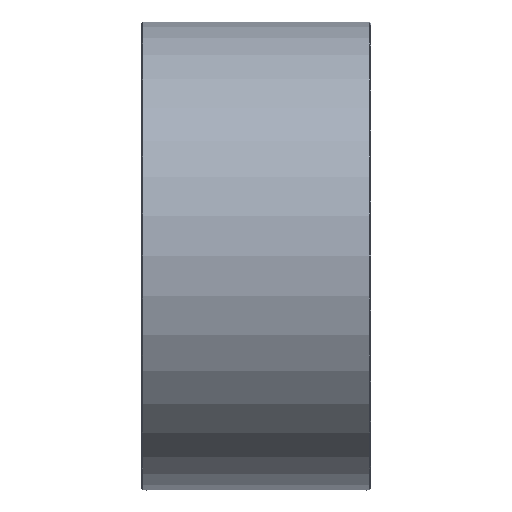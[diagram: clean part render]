
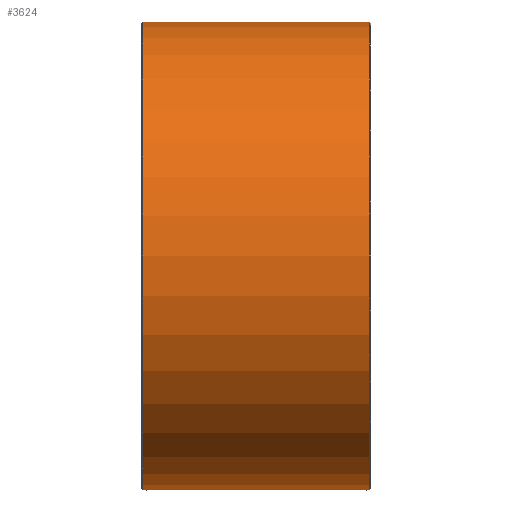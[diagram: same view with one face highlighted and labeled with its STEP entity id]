
A CAD part, left-side view. The second image highlights one B-rep face of the part: STEP entity #3624.
In plain terms, the highlighted cylindrical face has radius 112.5 mm (diameter 225 mm), a full revolution.
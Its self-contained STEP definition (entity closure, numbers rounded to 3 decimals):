
#2818=CYLINDRICAL_SURFACE('',#14301,112.5);
#3624=ADVANCED_FACE('',(#5367,#5368,#5369),#2818,.T.);
#4637=CIRCLE('',#14254,112.5);
#4653=CIRCLE('',#14272,112.5);
#4670=CIRCLE('',#14293,112.5);
#4671=CIRCLE('',#14294,112.5);
#4672=CIRCLE('',#14295,112.5);
#4673=CIRCLE('',#14296,112.5);
#4674=CIRCLE('',#14297,112.5);
#4675=CIRCLE('',#14298,112.5);
#4676=CIRCLE('',#14299,112.5);
#4677=CIRCLE('',#14300,112.5);
#5367=FACE_BOUND('',#6506,.T.);
#5368=FACE_BOUND('',#6507,.T.);
#5369=FACE_BOUND('',#6508,.T.);
#6506=EDGE_LOOP('',(#8565,#8566,#8567,#8568,#8569,#8570,#8571,#8572));
#6507=EDGE_LOOP('',(#8573,#8574,#8575,#8576,#8577,#8578,#8579,#8580));
#6508=EDGE_LOOP('',(#8581,#8582,#8583,#8584));
#8565=ORIENTED_EDGE('',*,*,#11789,.T.);
#8566=ORIENTED_EDGE('',*,*,#11746,.F.);
#8567=ORIENTED_EDGE('',*,*,#11790,.F.);
#8568=ORIENTED_EDGE('',*,*,#11791,.F.);
#8569=ORIENTED_EDGE('',*,*,#11792,.T.);
#8570=ORIENTED_EDGE('',*,*,#11793,.F.);
#8571=ORIENTED_EDGE('',*,*,#11794,.F.);
#8572=ORIENTED_EDGE('',*,*,#11795,.F.);
#8573=ORIENTED_EDGE('',*,*,#11796,.F.);
#8574=ORIENTED_EDGE('',*,*,#11766,.T.);
#8575=ORIENTED_EDGE('',*,*,#11797,.T.);
#8576=ORIENTED_EDGE('',*,*,#11798,.F.);
#8577=ORIENTED_EDGE('',*,*,#11799,.T.);
#8578=ORIENTED_EDGE('',*,*,#11800,.T.);
#8579=ORIENTED_EDGE('',*,*,#11801,.F.);
#8580=ORIENTED_EDGE('',*,*,#11802,.T.);
#8581=ORIENTED_EDGE('',*,*,#11803,.F.);
#8582=ORIENTED_EDGE('',*,*,#11804,.F.);
#8583=ORIENTED_EDGE('',*,*,#11805,.F.);
#8584=ORIENTED_EDGE('',*,*,#11806,.F.);
#10468=VERTEX_POINT('',#20436);
#10469=VERTEX_POINT('',#20441);
#10487=VERTEX_POINT('',#20482);
#10489=VERTEX_POINT('',#20489);
#10510=VERTEX_POINT('',#20544);
#10511=VERTEX_POINT('',#20546);
#10512=VERTEX_POINT('',#20548);
#10513=VERTEX_POINT('',#20550);
#10514=VERTEX_POINT('',#20552);
#10515=VERTEX_POINT('',#20554);
#10516=VERTEX_POINT('',#20557);
#10517=VERTEX_POINT('',#20559);
#10518=VERTEX_POINT('',#20561);
#10519=VERTEX_POINT('',#20563);
#10520=VERTEX_POINT('',#20565);
#10521=VERTEX_POINT('',#20567);
#10522=VERTEX_POINT('',#20570);
#10523=VERTEX_POINT('',#20571);
#10524=VERTEX_POINT('',#20573);
#10525=VERTEX_POINT('',#20575);
#11746=EDGE_CURVE('',#10469,#10468,#4637,.T.);
#11766=EDGE_CURVE('',#10487,#10489,#4653,.T.);
#11789=EDGE_CURVE('',#10510,#10468,#12870,.T.);
#11790=EDGE_CURVE('',#10511,#10469,#12871,.T.);
#11791=EDGE_CURVE('',#10512,#10511,#4670,.T.);
#11792=EDGE_CURVE('',#10512,#10513,#12872,.T.);
#11793=EDGE_CURVE('',#10514,#10513,#4671,.T.);
#11794=EDGE_CURVE('',#10515,#10514,#12873,.T.);
#11795=EDGE_CURVE('',#10510,#10515,#4672,.T.);
#11796=EDGE_CURVE('',#10487,#10516,#12874,.T.);
#11797=EDGE_CURVE('',#10489,#10517,#12875,.T.);
#11798=EDGE_CURVE('',#10518,#10517,#4673,.T.);
#11799=EDGE_CURVE('',#10518,#10519,#12876,.T.);
#11800=EDGE_CURVE('',#10519,#10520,#4674,.T.);
#11801=EDGE_CURVE('',#10521,#10520,#12877,.T.);
#11802=EDGE_CURVE('',#10521,#10516,#4675,.T.);
#11803=EDGE_CURVE('',#10522,#10523,#4676,.T.);
#11804=EDGE_CURVE('',#10524,#10522,#12878,.T.);
#11805=EDGE_CURVE('',#10525,#10524,#4677,.T.);
#11806=EDGE_CURVE('',#10523,#10525,#12879,.T.);
#12870=LINE('',#20543,#13507);
#12871=LINE('',#20545,#13508);
#12872=LINE('',#20549,#13509);
#12873=LINE('',#20553,#13510);
#12874=LINE('',#20556,#13511);
#12875=LINE('',#20558,#13512);
#12876=LINE('',#20562,#13513);
#12877=LINE('',#20566,#13514);
#12878=LINE('',#20572,#13515);
#12879=LINE('',#20576,#13516);
#13507=VECTOR('',#16676,1.);
#13508=VECTOR('',#16677,1.);
#13509=VECTOR('',#16680,1.);
#13510=VECTOR('',#16683,1.);
#13511=VECTOR('',#16686,1.);
#13512=VECTOR('',#16687,1.);
#13513=VECTOR('',#16690,1.);
#13514=VECTOR('',#16693,1.);
#13515=VECTOR('',#16698,1.);
#13516=VECTOR('',#16701,1.);
#14254=AXIS2_PLACEMENT_3D('',#20442,#16592,#16593);
#14272=AXIS2_PLACEMENT_3D('',#20490,#16630,#16631);
#14293=AXIS2_PLACEMENT_3D('',#20547,#16678,#16679);
#14294=AXIS2_PLACEMENT_3D('',#20551,#16681,#16682);
#14295=AXIS2_PLACEMENT_3D('',#20555,#16684,#16685);
#14296=AXIS2_PLACEMENT_3D('',#20560,#16688,#16689);
#14297=AXIS2_PLACEMENT_3D('',#20564,#16691,#16692);
#14298=AXIS2_PLACEMENT_3D('',#20568,#16694,#16695);
#14299=AXIS2_PLACEMENT_3D('',#20569,#16696,#16697);
#14300=AXIS2_PLACEMENT_3D('',#20574,#16699,#16700);
#14301=AXIS2_PLACEMENT_3D('',#20577,#16702,#16703);
#16592=DIRECTION('',(-1.,0.,0.));
#16593=DIRECTION('',(0.,0.,1.));
#16630=DIRECTION('',(-1.,0.,0.));
#16631=DIRECTION('',(0.,0.,1.));
#16676=DIRECTION('',(-1.,0.,0.));
#16677=DIRECTION('',(-1.,0.,0.));
#16678=DIRECTION('',(-1.,0.,0.));
#16679=DIRECTION('',(0.,0.,1.));
#16680=DIRECTION('',(-1.,0.,0.));
#16681=DIRECTION('',(-1.,0.,0.));
#16682=DIRECTION('',(0.,0.,1.));
#16683=DIRECTION('',(-1.,0.,0.));
#16684=DIRECTION('',(-1.,0.,0.));
#16685=DIRECTION('',(0.,0.,-1.));
#16686=DIRECTION('',(-1.,0.,0.));
#16687=DIRECTION('',(-1.,0.,0.));
#16688=DIRECTION('',(1.,0.,0.));
#16689=DIRECTION('',(0.,0.,1.));
#16690=DIRECTION('',(1.,0.,0.));
#16691=DIRECTION('',(-1.,0.,0.));
#16692=DIRECTION('',(0.,0.,1.));
#16693=DIRECTION('',(1.,0.,0.));
#16694=DIRECTION('',(-1.,0.,0.));
#16695=DIRECTION('',(0.,0.,-1.));
#16696=DIRECTION('',(-1.,0.,0.));
#16697=DIRECTION('',(0.,0.,-1.));
#16698=DIRECTION('',(1.,0.,0.));
#16699=DIRECTION('',(1.,0.,0.));
#16700=DIRECTION('',(0.,0.,1.));
#16701=DIRECTION('',(-1.,0.,0.));
#16702=DIRECTION('',(-1.,0.,0.));
#16703=DIRECTION('',(0.,0.,1.));
#20436=CARTESIAN_POINT('',(0.5,3.,-112.46));
#20441=CARTESIAN_POINT('',(0.5,3.,112.46));
#20442=CARTESIAN_POINT('',(0.5,0.,0.));
#20482=CARTESIAN_POINT('',(109.5,-3.,-112.46));
#20489=CARTESIAN_POINT('',(109.5,-3.,112.46));
#20490=CARTESIAN_POINT('',(109.5,0.,0.));
#20543=CARTESIAN_POINT('',(2.,3.,-112.46));
#20544=CARTESIAN_POINT('',(2.,3.,-112.46));
#20545=CARTESIAN_POINT('',(2.,3.,112.46));
#20546=CARTESIAN_POINT('',(2.,3.,112.46));
#20547=CARTESIAN_POINT('',(2.,0.,0.));
#20548=CARTESIAN_POINT('',(2.,-3.,112.46));
#20549=CARTESIAN_POINT('',(2.,-3.,112.46));
#20550=CARTESIAN_POINT('',(0.5,-3.,112.46));
#20551=CARTESIAN_POINT('',(0.5,0.,0.));
#20552=CARTESIAN_POINT('',(0.5,-3.,-112.46));
#20553=CARTESIAN_POINT('',(2.,-3.,-112.46));
#20554=CARTESIAN_POINT('',(2.,-3.,-112.46));
#20555=CARTESIAN_POINT('',(2.,0.,0.));
#20556=CARTESIAN_POINT('',(0.,-3.,-112.46));
#20557=CARTESIAN_POINT('',(108.,-3.,-112.46));
#20558=CARTESIAN_POINT('',(0.,-3.,112.46));
#20559=CARTESIAN_POINT('',(108.,-3.,112.46));
#20560=CARTESIAN_POINT('',(108.,0.,0.));
#20561=CARTESIAN_POINT('',(108.,3.,112.46));
#20562=CARTESIAN_POINT('',(0.,3.,112.46));
#20563=CARTESIAN_POINT('',(109.5,3.,112.46));
#20564=CARTESIAN_POINT('',(109.5,0.,0.));
#20565=CARTESIAN_POINT('',(109.5,3.,-112.46));
#20566=CARTESIAN_POINT('',(0.,3.,-112.46));
#20567=CARTESIAN_POINT('',(108.,3.,-112.46));
#20568=CARTESIAN_POINT('',(108.,0.,0.));
#20569=CARTESIAN_POINT('',(99.038,0.,0.));
#20570=CARTESIAN_POINT('',(99.038,98.,55.247));
#20571=CARTESIAN_POINT('',(99.038,98.,-55.247));
#20572=CARTESIAN_POINT('',(0.,98.,55.247));
#20573=CARTESIAN_POINT('',(50.963,98.,55.247));
#20574=CARTESIAN_POINT('',(50.963,0.,0.));
#20575=CARTESIAN_POINT('',(50.963,98.,-55.247));
#20576=CARTESIAN_POINT('',(0.,98.,-55.247));
#20577=CARTESIAN_POINT('',(0.,0.,0.));
